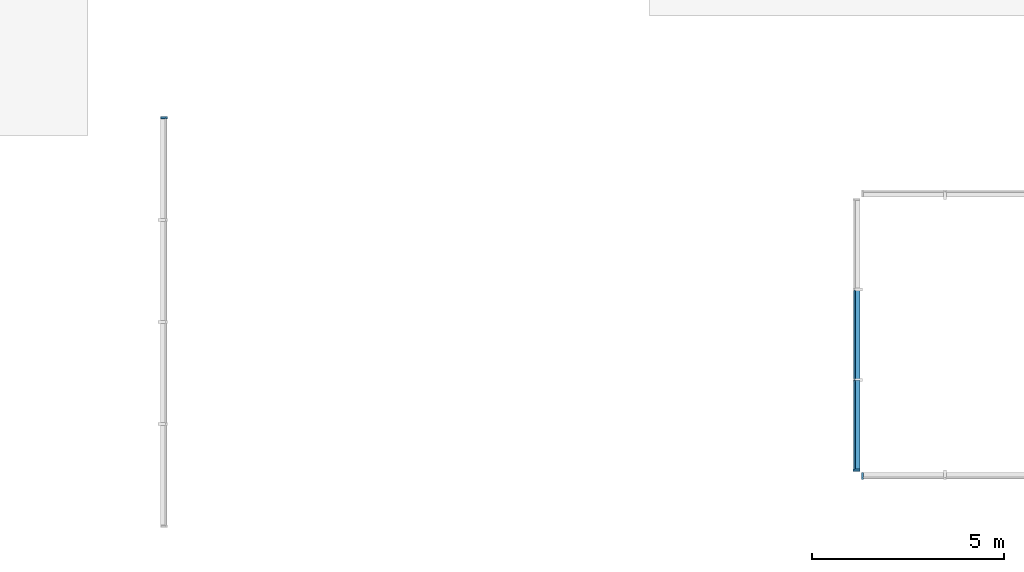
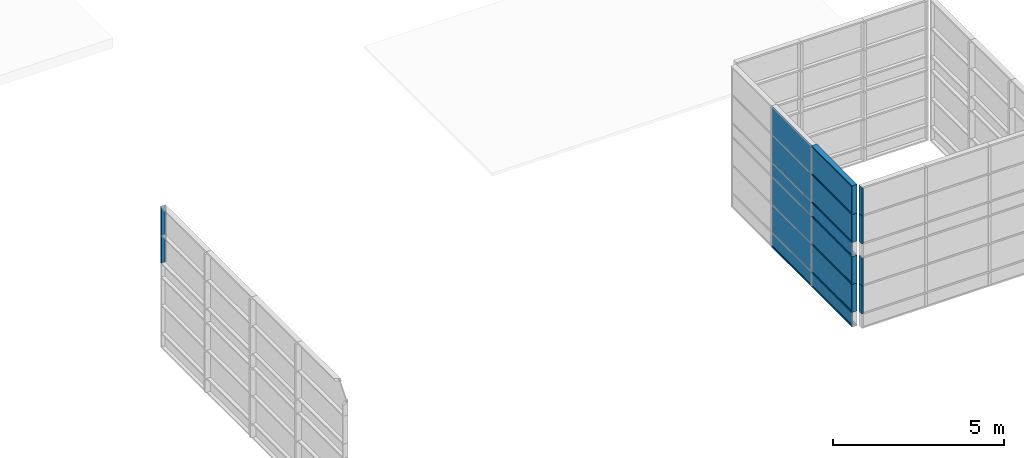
# One storey, part 4 of 19: 30 building element parts, 3 elements without a shape of their own.
"""IFC4 building model written with IfcOpenShell, lengths in millimetres."""

from ifc_helpers import new_model, entity, si_unit, converted_unit, derived_unit, direction, frame, origin_with_axes, place, context, subcontext, project, spatial, triangles, material, element, aggregate, save


model = new_model("IFC4")

# Units and contexts
model_context = context("Model", 3, precision=1e-05, world=origin_with_axes(), true_north=direction((0.0, 1.0)))
body_context = subcontext(model_context, "Body", "Model", "MODEL_VIEW")
ifc_project = project(units=[si_unit("LENGTHUNIT", "METRE", prefix="MILLI"), si_unit("AREAUNIT", "SQUARE_METRE"), si_unit("VOLUMEUNIT", "CUBIC_METRE"), converted_unit("PLANEANGLEUNIT", "DEGREE", entity("IfcLengthMeasure", 0.017453), si_unit("PLANEANGLEUNIT", "RADIAN"), dimensions=[0, 0, 0, 0, 0, 0, 0]), si_unit("SOLIDANGLEUNIT", "STERADIAN"), si_unit("MASSUNIT", "GRAM"), si_unit("TIMEUNIT", "SECOND"), si_unit("THERMODYNAMICTEMPERATUREUNIT", "DEGREE_CELSIUS"), si_unit("LUMINOUSINTENSITYUNIT", "LUMEN"), si_unit("POWERUNIT", "WATT"), derived_unit("THERMALTRANSMITTANCEUNIT", [(si_unit("POWERUNIT", "WATT"), 1), (si_unit("THERMODYNAMICTEMPERATUREUNIT", "KELVIN"), -1), (si_unit("AREAUNIT", "SQUARE_METRE"), -1)])], contexts=[model_context])

# Site, building, storey
site_placement = place(None, origin_with_axes())
site = spatial("IfcSite", under=ifc_project, at=site_placement, Name="Default Site", CompositionType="ELEMENT")
building_placement = place(site_placement, origin_with_axes())
building = spatial("IfcBuilding", under=site, at=building_placement, Name="Default Building", CompositionType="ELEMENT")
storey_placement = place(building_placement, frame((0.0, 0.0, 3000.0), z_axis=(0.0, 0.0, 1.0), x_axis=(1.0, 0.0, 0.0)))
storey = spatial("IfcBuildingStorey", under=building, at=storey_placement, Name="EG - Story", CompositionType="ELEMENT", Elevation=3000.0)

# Curtain wall, building element parts
curtain_wall_1_placement = place(storey_placement, origin_with_axes())
curtain_wall_1 = element("IfcCurtainWall", 1, at=curtain_wall_1_placement, inside=storey, Name="Fassade-013", PredefinedType="NOTDEFINED")
ifc_material_1 = material(Name="Blech")
building_element_part_1_placement = place(curtain_wall_1_placement, frame((51421.391327, -49908.012838, 0.0), z_axis=(0.0, 0.0, 1.0), x_axis=(1.0, 0.0, 0.0)))
building_element_part_1 = element("IfcBuildingElementPart", 2, at=building_element_part_1_placement, material=ifc_material_1, Name="Blech", PredefinedType="NOTDEFINED", context=body_context, shape_type="Tessellation", body=[
    triangles([(15.0, 9293.75, 4000.0), (15.0, 9313.75, 4000.0), (35.0, 9343.75, 4000.0), (-14.999, 9313.75, 4000.0), (-132.999, 9293.75, 4000.0), (-14.999, 9293.75, 4000.0), (-132.999, 9343.75, 4000.0), (35.0, 9293.75, 4000.0), (-14.999, 9313.75, 3000.0), (15.0, 9313.75, 3000.0), (15.0, 9293.75, 3000.0), (35.0, 9293.75, 3000.0), (35.0, 9343.75, 3000.0), (-132.999, 9343.75, 3000.0), (-132.999, 9293.75, 3000.0), (-14.999, 9293.75, 3000.0)], [[1, 2, 3], [3, 2, 4], [3, 4, 5], [5, 4, 6], [3, 5, 7], [1, 3, 8], [2, 4, 9], [2, 9, 10], [11, 1, 2], [11, 2, 10], [1, 11, 12], [1, 12, 8], [13, 3, 8], [13, 8, 12], [14, 7, 3], [14, 3, 13], [15, 5, 7], [15, 7, 14], [16, 6, 5], [16, 5, 15], [4, 6, 16], [4, 16, 9], [13, 12, 11], [13, 11, 10], [13, 10, 9], [13, 9, 15], [13, 15, 14], [16, 15, 9]], closed=False),
])
building_element_part_2_placement = place(curtain_wall_1_placement, frame((51421.391327, -49908.012838, 0.0), z_axis=(0.0, 0.0, 1.0), x_axis=(1.0, 0.0, 0.0)))
building_element_part_2 = element("IfcBuildingElementPart", 3, at=building_element_part_2_placement, material=ifc_material_1, Name="Blech", PredefinedType="NOTDEFINED", context=body_context, shape_type="Tessellation", body=[
    triangles([(15.0, 9313.75, 4995.0), (-14.999, 9313.75, 4995.0), (-132.999, 9343.75, 5025.0), (35.0, 9343.75, 5025.0), (35.0, 9293.75, 4975.0), (15.0, 9293.75, 4975.0), (-14.999, 9293.75, 4975.0), (-132.999, 9293.75, 4975.0), (-14.999, 9313.75, 4000.0), (15.0, 9313.75, 4000.0), (15.0, 9293.75, 4000.0), (35.0, 9293.75, 4000.0), (35.0, 9343.75, 4000.0), (-132.999, 9343.75, 4000.0), (-132.999, 9293.75, 4000.0), (-14.999, 9293.75, 4000.0)], [[1, 2, 3], [1, 3, 4], [1, 4, 5], [1, 5, 6], [7, 8, 3], [7, 3, 2], [1, 2, 9], [1, 9, 10], [11, 6, 1], [11, 1, 10], [6, 11, 12], [6, 12, 5], [13, 4, 5], [13, 5, 12], [14, 3, 4], [14, 4, 13], [15, 8, 3], [15, 3, 14], [16, 7, 8], [16, 8, 15], [2, 7, 16], [2, 16, 9], [13, 12, 11], [13, 11, 10], [13, 10, 9], [13, 9, 15], [13, 15, 14], [16, 15, 9]], closed=False),
])
aggregate(curtain_wall_1, [building_element_part_1, building_element_part_2])

curtain_wall_2_placement = place(storey_placement, origin_with_axes())
curtain_wall_2 = element("IfcCurtainWall", 4, at=curtain_wall_2_placement, inside=storey, Name="Fassade-011", PredefinedType="NOTDEFINED")
ifc_material_2 = material(Name="Normalglas")
building_element_part_3_placement = place(curtain_wall_2_placement, frame((69381.391327, -43896.324358, 0.0), z_axis=(0.0, 0.0, 1.0), x_axis=(1.0, 0.0, 0.0)))
building_element_part_3 = element("IfcBuildingElementPart", 5, at=building_element_part_3_placement, material=ifc_material_2, Name="Normalglas", PredefinedType="NOTDEFINED", context=body_context, shape_type="Tessellation", body=[
    triangles([(15.0, -3515.973, 495.0), (15.0, -1185.324, 495.0), (-14.999, -1185.324, 495.0), (-14.999, -3515.973, 495.0), (15.0, -3515.973, 5.0), (15.0, -1185.324, 5.0), (-14.999, -1185.324, 5.0), (-14.999, -3515.973, 5.0)], [[1, 2, 3], [1, 3, 4], [1, 5, 6], [1, 6, 2], [2, 6, 7], [2, 7, 3], [4, 3, 7], [4, 7, 8], [5, 1, 4], [5, 4, 8], [6, 5, 8], [6, 8, 7]], closed=False),
])
building_element_part_4_placement = place(curtain_wall_2_placement, frame((69381.391327, -43896.324358, 0.0), z_axis=(0.0, 0.0, 1.0), x_axis=(1.0, 0.0, 0.0)))
building_element_part_4 = element("IfcBuildingElementPart", 6, at=building_element_part_4_placement, material=ifc_material_2, Name="Normalglas", PredefinedType="NOTDEFINED", context=body_context, shape_type="Tessellation", body=[
    triangles([(15.0, -5871.623, 495.0), (15.0, -3535.973, 495.0), (-14.999, -3535.973, 495.0), (-14.999, -5871.623, 495.0), (15.0, -5871.623, 5.0), (15.0, -3535.973, 5.0), (-14.999, -3535.973, 5.0), (-14.999, -5871.623, 5.0)], [[1, 2, 3], [1, 3, 4], [1, 5, 6], [1, 6, 2], [2, 6, 7], [2, 7, 3], [4, 3, 7], [4, 7, 8], [5, 1, 4], [5, 4, 8], [6, 5, 8], [6, 8, 7]], closed=False),
])
building_element_part_5_placement = place(curtain_wall_2_placement, frame((69381.391327, -43896.324358, 0.0), z_axis=(0.0, 0.0, 1.0), x_axis=(1.0, 0.0, 0.0)))
building_element_part_5 = element("IfcBuildingElementPart", 7, at=building_element_part_5_placement, material=ifc_material_2, Name="Normalglas", PredefinedType="NOTDEFINED", context=body_context, shape_type="Tessellation", body=[
    triangles([(15.0, -3515.973, 1495.0), (15.0, -1185.324, 1495.0), (-14.999, -1185.324, 1495.0), (-14.999, -3515.973, 1495.0), (15.0, -3515.973, 505.0), (15.0, -1185.324, 505.0), (-14.999, -1185.324, 505.0), (-14.999, -3515.973, 505.0)], [[1, 2, 3], [1, 3, 4], [1, 5, 6], [1, 6, 2], [2, 6, 7], [2, 7, 3], [4, 3, 7], [4, 7, 8], [5, 1, 4], [5, 4, 8], [6, 5, 8], [6, 8, 7]], closed=False),
])
building_element_part_6_placement = place(curtain_wall_2_placement, frame((69381.391327, -43896.324358, 0.0), z_axis=(0.0, 0.0, 1.0), x_axis=(1.0, 0.0, 0.0)))
building_element_part_6 = element("IfcBuildingElementPart", 8, at=building_element_part_6_placement, material=ifc_material_2, Name="Normalglas", PredefinedType="NOTDEFINED", context=body_context, shape_type="Tessellation", body=[
    triangles([(15.0, -5871.623, 1495.0), (15.0, -3535.973, 1495.0), (-14.999, -3535.973, 1495.0), (-14.999, -5871.623, 1495.0), (15.0, -5871.623, 505.0), (15.0, -3535.973, 505.0), (-14.999, -3535.973, 505.0), (-14.999, -5871.623, 505.0)], [[1, 2, 3], [1, 3, 4], [1, 5, 6], [1, 6, 2], [2, 6, 7], [2, 7, 3], [4, 3, 7], [4, 7, 8], [5, 1, 4], [5, 4, 8], [6, 5, 8], [6, 8, 7]], closed=False),
])
building_element_part_7_placement = place(curtain_wall_2_placement, frame((69381.391327, -43896.324358, 0.0), z_axis=(0.0, 0.0, 1.0), x_axis=(1.0, 0.0, 0.0)))
building_element_part_7 = element("IfcBuildingElementPart", 9, at=building_element_part_7_placement, material=ifc_material_2, Name="Normalglas", PredefinedType="NOTDEFINED", context=body_context, shape_type="Tessellation", body=[
    triangles([(15.0, -3515.973, 2495.0), (15.0, -1185.324, 2495.0), (-14.999, -1185.324, 2495.0), (-14.999, -3515.973, 2495.0), (15.0, -3515.973, 1505.0), (15.0, -1185.324, 1505.0), (-14.999, -1185.324, 1505.0), (-14.999, -3515.973, 1505.0)], [[1, 2, 3], [1, 3, 4], [1, 5, 6], [1, 6, 2], [2, 6, 7], [2, 7, 3], [4, 3, 7], [4, 7, 8], [5, 1, 4], [5, 4, 8], [6, 5, 8], [6, 8, 7]], closed=False),
])
building_element_part_8_placement = place(curtain_wall_2_placement, frame((69381.391327, -43896.324358, 0.0), z_axis=(0.0, 0.0, 1.0), x_axis=(1.0, 0.0, 0.0)))
building_element_part_8 = element("IfcBuildingElementPart", 10, at=building_element_part_8_placement, material=ifc_material_2, Name="Normalglas", PredefinedType="NOTDEFINED", context=body_context, shape_type="Tessellation", body=[
    triangles([(15.0, -5871.623, 2495.0), (15.0, -3535.973, 2495.0), (-14.999, -3535.973, 2495.0), (-14.999, -5871.623, 2495.0), (15.0, -5871.623, 1505.0), (15.0, -3535.973, 1505.0), (-14.999, -3535.973, 1505.0), (-14.999, -5871.623, 1505.0)], [[1, 2, 3], [1, 3, 4], [1, 5, 6], [1, 6, 2], [2, 6, 7], [2, 7, 3], [4, 3, 7], [4, 7, 8], [5, 1, 4], [5, 4, 8], [6, 5, 8], [6, 8, 7]], closed=False),
])
building_element_part_9_placement = place(curtain_wall_2_placement, frame((69381.391327, -43896.324358, 0.0), z_axis=(0.0, 0.0, 1.0), x_axis=(1.0, 0.0, 0.0)))
building_element_part_9 = element("IfcBuildingElementPart", 11, at=building_element_part_9_placement, material=ifc_material_2, Name="Normalglas", PredefinedType="NOTDEFINED", context=body_context, shape_type="Tessellation", body=[
    triangles([(15.0, -3515.973, 2995.0), (15.0, -1185.324, 2995.0), (-14.999, -1185.324, 2995.0), (-14.999, -3515.973, 2995.0), (15.0, -3515.973, 2505.0), (15.0, -1185.324, 2505.0), (-14.999, -1185.324, 2505.0), (-14.999, -3515.973, 2505.0)], [[1, 2, 3], [1, 3, 4], [1, 5, 6], [1, 6, 2], [2, 6, 7], [2, 7, 3], [4, 3, 7], [4, 7, 8], [5, 1, 4], [5, 4, 8], [6, 5, 8], [6, 8, 7]], closed=False),
])
building_element_part_10_placement = place(curtain_wall_2_placement, frame((69381.391327, -43896.324358, 0.0), z_axis=(0.0, 0.0, 1.0), x_axis=(1.0, 0.0, 0.0)))
building_element_part_10 = element("IfcBuildingElementPart", 12, at=building_element_part_10_placement, material=ifc_material_2, Name="Normalglas", PredefinedType="NOTDEFINED", context=body_context, shape_type="Tessellation", body=[
    triangles([(15.0, -5871.623, 2995.0), (15.0, -3535.973, 2995.0), (-14.999, -3535.973, 2995.0), (-14.999, -5871.623, 2995.0), (15.0, -5871.623, 2505.0), (15.0, -3535.973, 2505.0), (-14.999, -3535.973, 2505.0), (-14.999, -5871.623, 2505.0)], [[1, 2, 3], [1, 3, 4], [1, 5, 6], [1, 6, 2], [2, 6, 7], [2, 7, 3], [4, 3, 7], [4, 7, 8], [5, 1, 4], [5, 4, 8], [6, 5, 8], [6, 8, 7]], closed=False),
])
building_element_part_11_placement = place(curtain_wall_2_placement, frame((69381.391327, -43896.324358, 0.0), z_axis=(0.0, 0.0, 1.0), x_axis=(1.0, 0.0, 0.0)))
building_element_part_11 = element("IfcBuildingElementPart", 13, at=building_element_part_11_placement, material=ifc_material_2, Name="Normalglas", PredefinedType="NOTDEFINED", context=body_context, shape_type="Tessellation", body=[
    triangles([(15.0, -3515.973, 3995.0), (15.0, -1185.324, 3995.0), (-14.999, -1185.324, 3995.0), (-14.999, -3515.973, 3995.0), (15.0, -3515.973, 3005.0), (15.0, -1185.324, 3005.0), (-14.999, -1185.324, 3005.0), (-14.999, -3515.973, 3005.0)], [[1, 2, 3], [1, 3, 4], [1, 5, 6], [1, 6, 2], [2, 6, 7], [2, 7, 3], [4, 3, 7], [4, 7, 8], [5, 1, 4], [5, 4, 8], [6, 5, 8], [6, 8, 7]], closed=False),
])
building_element_part_12_placement = place(curtain_wall_2_placement, frame((69381.391327, -43896.324358, 0.0), z_axis=(0.0, 0.0, 1.0), x_axis=(1.0, 0.0, 0.0)))
building_element_part_12 = element("IfcBuildingElementPart", 14, at=building_element_part_12_placement, material=ifc_material_2, Name="Normalglas", PredefinedType="NOTDEFINED", context=body_context, shape_type="Tessellation", body=[
    triangles([(15.0, -5871.623, 3995.0), (15.0, -3535.973, 3995.0), (-14.999, -3535.973, 3995.0), (-14.999, -5871.623, 3995.0), (15.0, -5871.623, 3005.0), (15.0, -3535.973, 3005.0), (-14.999, -3535.973, 3005.0), (-14.999, -5871.623, 3005.0)], [[1, 2, 3], [1, 3, 4], [1, 5, 6], [1, 6, 2], [2, 6, 7], [2, 7, 3], [4, 3, 7], [4, 7, 8], [5, 1, 4], [5, 4, 8], [6, 5, 8], [6, 8, 7]], closed=False),
])
building_element_part_13_placement = place(curtain_wall_2_placement, frame((69381.391327, -43896.324358, 0.0), z_axis=(0.0, 0.0, 1.0), x_axis=(1.0, 0.0, 0.0)))
building_element_part_13 = element("IfcBuildingElementPart", 15, at=building_element_part_13_placement, material=ifc_material_2, Name="Normalglas", PredefinedType="NOTDEFINED", context=body_context, shape_type="Tessellation", body=[
    triangles([(15.0, -3515.973, 4995.0), (15.0, -1185.324, 4995.0), (-14.999, -1185.324, 4995.0), (-14.999, -3515.973, 4995.0), (15.0, -3515.973, 4005.0), (15.0, -1185.324, 4005.0), (-14.999, -1185.324, 4005.0), (-14.999, -3515.973, 4005.0)], [[1, 2, 3], [1, 3, 4], [1, 5, 6], [1, 6, 2], [2, 6, 7], [2, 7, 3], [4, 3, 7], [4, 7, 8], [5, 1, 4], [5, 4, 8], [6, 5, 8], [6, 8, 7]], closed=False),
])
building_element_part_14_placement = place(curtain_wall_2_placement, frame((69381.391327, -43896.324358, 0.0), z_axis=(0.0, 0.0, 1.0), x_axis=(1.0, 0.0, 0.0)))
building_element_part_14 = element("IfcBuildingElementPart", 16, at=building_element_part_14_placement, material=ifc_material_2, Name="Normalglas", PredefinedType="NOTDEFINED", context=body_context, shape_type="Tessellation", body=[
    triangles([(15.0, -5871.623, 4995.0), (15.0, -3535.973, 4995.0), (-14.999, -3535.973, 4995.0), (-14.999, -5871.623, 4995.0), (15.0, -5871.623, 4005.0), (15.0, -3535.973, 4005.0), (-14.999, -3535.973, 4005.0), (-14.999, -5871.623, 4005.0)], [[1, 2, 3], [1, 3, 4], [1, 5, 6], [1, 6, 2], [2, 6, 7], [2, 7, 3], [4, 3, 7], [4, 7, 8], [5, 1, 4], [5, 4, 8], [6, 5, 8], [6, 8, 7]], closed=False),
])
building_element_part_15_placement = place(curtain_wall_2_placement, frame((69381.391327, -43896.324358, 0.0), z_axis=(0.0, 0.0, 1.0), x_axis=(1.0, 0.0, 0.0)))
building_element_part_15 = element("IfcBuildingElementPart", 17, at=building_element_part_15_placement, material=ifc_material_1, Name="Blech", PredefinedType="NOTDEFINED", context=body_context, shape_type="Tessellation", body=[
    triangles([(-14.999, -3525.973, 5.0), (15.0, -3525.973, 5.0), (133.0, -3525.973, -24.999), (-34.999, -3525.973, -24.999), (-34.999, -3525.973, 25.0), (-14.999, -3525.973, 25.0), (133.0, -3525.973, 25.0), (15.0, -3525.973, 25.0), (15.0, -1175.324, 5.0), (-14.999, -1175.324, 5.0), (-14.999, -1175.324, 25.0), (-34.999, -1175.324, 25.0), (-34.999, -1175.324, -24.999), (133.0, -1175.324, -24.999), (133.0, -1175.324, 25.0), (15.0, -1175.324, 25.0)], [[1, 2, 3], [1, 3, 4], [1, 4, 5], [1, 5, 6], [7, 3, 2], [7, 2, 8], [1, 2, 9], [1, 9, 10], [11, 6, 1], [11, 1, 10], [6, 11, 12], [6, 12, 5], [13, 4, 5], [13, 5, 12], [14, 3, 4], [14, 4, 13], [15, 7, 3], [15, 3, 14], [16, 8, 7], [16, 7, 15], [2, 8, 16], [2, 16, 9], [16, 15, 9], [9, 15, 14], [9, 14, 10], [10, 14, 13], [10, 13, 12], [10, 12, 11]], closed=False),
])
building_element_part_16_placement = place(curtain_wall_2_placement, frame((69381.391327, -43896.324358, 0.0), z_axis=(0.0, 0.0, 1.0), x_axis=(1.0, 0.0, 0.0)))
building_element_part_16 = element("IfcBuildingElementPart", 18, at=building_element_part_16_placement, material=ifc_material_1, Name="Blech", PredefinedType="NOTDEFINED", context=body_context, shape_type="Tessellation", body=[
    triangles([(-14.999, -5871.623, 5.0), (15.0, -5871.623, 5.0), (133.0, -5901.623, -24.999), (-34.999, -5901.623, -24.999), (-34.999, -5851.623, 25.0), (-14.999, -5851.623, 25.0), (133.0, -5851.623, 25.0), (15.0, -5851.623, 25.0), (15.0, -3525.973, 5.0), (-14.999, -3525.973, 5.0), (-14.999, -3525.973, 25.0), (-34.999, -3525.973, 25.0), (-34.999, -3525.973, -24.999), (133.0, -3525.973, -24.999), (133.0, -3525.973, 25.0), (15.0, -3525.973, 25.0)], [[1, 2, 3], [1, 3, 4], [1, 4, 5], [1, 5, 6], [7, 3, 2], [7, 2, 8], [1, 2, 9], [1, 9, 10], [11, 6, 1], [11, 1, 10], [6, 11, 12], [6, 12, 5], [13, 4, 5], [13, 5, 12], [14, 3, 4], [14, 4, 13], [15, 7, 3], [15, 3, 14], [16, 8, 7], [16, 7, 15], [2, 8, 16], [2, 16, 9], [16, 15, 9], [9, 15, 14], [9, 14, 10], [10, 14, 13], [10, 13, 12], [10, 12, 11]], closed=False),
])
building_element_part_17_placement = place(curtain_wall_2_placement, frame((69381.391327, -43896.324358, 0.0), z_axis=(0.0, 0.0, 1.0), x_axis=(1.0, 0.0, 0.0)))
building_element_part_17 = element("IfcBuildingElementPart", 19, at=building_element_part_17_placement, material=ifc_material_1, Name="Blech", PredefinedType="NOTDEFINED", context=body_context, shape_type="Tessellation", body=[
    triangles([(-14.999, -5851.623, 525.0), (-34.999, -5851.623, 525.0), (-14.999, -5851.623, 505.0), (-14.999, -5851.623, 495.0), (15.0, -5851.623, 505.0), (133.0, -5851.623, 525.0), (15.0, -5851.623, 525.0), (-34.999, -5851.623, 475.0), (-14.999, -5851.623, 475.0), (15.0, -5851.623, 495.0), (15.0, -5851.623, 475.0), (133.0, -5851.623, 475.0), (15.0, -3525.973, 495.0), (15.0, -3525.973, 475.0), (133.0, -3525.973, 475.0), (133.0, -3525.973, 525.0), (15.0, -3525.973, 525.0), (15.0, -3525.973, 505.0), (-14.999, -3525.973, 505.0), (-14.999, -3525.973, 525.0), (-34.999, -3525.973, 525.0), (-34.999, -3525.973, 475.0), (-14.999, -3525.973, 475.0), (-14.999, -3525.973, 495.0)], [[1, 2, 3], [3, 2, 4], [3, 4, 5], [5, 4, 6], [5, 6, 7], [8, 9, 4], [8, 4, 2], [6, 4, 10], [6, 10, 11], [6, 11, 12], [11, 10, 13], [11, 13, 14], [11, 14, 15], [11, 15, 12], [6, 12, 15], [6, 15, 16], [7, 6, 16], [7, 16, 17], [7, 17, 18], [7, 18, 5], [5, 18, 19], [5, 19, 3], [1, 3, 19], [1, 19, 20], [20, 21, 2], [20, 2, 1], [8, 2, 21], [8, 21, 22], [23, 9, 8], [23, 8, 22], [4, 9, 23], [4, 23, 24], [10, 4, 24], [10, 24, 13], [17, 16, 18], [18, 16, 13], [18, 13, 19], [19, 13, 24], [19, 24, 21], [21, 24, 23], [21, 23, 22], [15, 14, 13], [15, 13, 16], [19, 21, 20]], closed=False),
])
building_element_part_18_placement = place(curtain_wall_2_placement, frame((69381.391327, -43896.324358, 0.0), z_axis=(0.0, 0.0, 1.0), x_axis=(1.0, 0.0, 0.0)))
building_element_part_18 = element("IfcBuildingElementPart", 20, at=building_element_part_18_placement, material=ifc_material_1, Name="Blech", PredefinedType="NOTDEFINED", context=body_context, shape_type="Tessellation", body=[
    triangles([(15.0, -5851.623, 1500.0), (133.0, -5851.623, 1500.0), (15.0, -5871.623, 1500.0), (133.0, -5901.623, 1500.0), (-14.999, -5871.623, 1500.0), (-34.999, -5901.623, 1500.0), (-14.999, -5851.623, 1500.0), (-34.999, -5851.623, 1500.0), (15.0, -5871.623, 500.0), (-14.999, -5871.623, 500.0), (-14.999, -5851.623, 500.0), (-34.999, -5851.623, 500.0), (-34.999, -5901.623, 500.0), (133.0, -5901.623, 500.0), (133.0, -5851.623, 500.0), (15.0, -5851.623, 500.0)], [[1, 2, 3], [3, 2, 4], [3, 4, 5], [5, 4, 6], [5, 6, 7], [7, 6, 8], [5, 3, 9], [5, 9, 10], [11, 7, 5], [11, 5, 10], [7, 11, 12], [7, 12, 8], [13, 6, 8], [13, 8, 12], [14, 4, 6], [14, 6, 13], [15, 2, 4], [15, 4, 14], [16, 1, 2], [16, 2, 15], [3, 1, 16], [3, 16, 9], [16, 15, 9], [9, 15, 14], [9, 14, 10], [10, 14, 13], [10, 13, 11], [11, 13, 12]], closed=False),
])
building_element_part_19_placement = place(curtain_wall_2_placement, frame((69381.391327, -43896.324358, 0.0), z_axis=(0.0, 0.0, 1.0), x_axis=(1.0, 0.0, 0.0)))
building_element_part_19 = element("IfcBuildingElementPart", 21, at=building_element_part_19_placement, material=ifc_material_1, Name="Blech", PredefinedType="NOTDEFINED", context=body_context, shape_type="Tessellation", body=[
    triangles([(-14.999, -5851.623, 1525.0), (-34.999, -5851.623, 1525.0), (-14.999, -5851.623, 1505.0), (-14.999, -5851.623, 1495.0), (15.0, -5851.623, 1505.0), (133.0, -5851.623, 1525.0), (15.0, -5851.623, 1525.0), (-34.999, -5851.623, 1475.0), (-14.999, -5851.623, 1475.0), (15.0, -5851.623, 1495.0), (15.0, -5851.623, 1475.0), (133.0, -5851.623, 1475.0), (15.0, -3525.973, 1495.0), (15.0, -3525.973, 1475.0), (133.0, -3525.973, 1475.0), (133.0, -3525.973, 1525.0), (15.0, -3525.973, 1525.0), (15.0, -3525.973, 1505.0), (-14.999, -3525.973, 1505.0), (-14.999, -3525.973, 1525.0), (-34.999, -3525.973, 1525.0), (-34.999, -3525.973, 1475.0), (-14.999, -3525.973, 1475.0), (-14.999, -3525.973, 1495.0)], [[1, 2, 3], [3, 2, 4], [3, 4, 5], [5, 4, 6], [5, 6, 7], [8, 9, 4], [8, 4, 2], [6, 4, 10], [6, 10, 11], [6, 11, 12], [11, 10, 13], [11, 13, 14], [11, 14, 15], [11, 15, 12], [6, 12, 15], [6, 15, 16], [7, 6, 16], [7, 16, 17], [7, 17, 18], [7, 18, 5], [5, 18, 19], [5, 19, 3], [1, 3, 19], [1, 19, 20], [20, 21, 2], [20, 2, 1], [8, 2, 21], [8, 21, 22], [23, 9, 8], [23, 8, 22], [4, 9, 23], [4, 23, 24], [10, 4, 24], [10, 24, 13], [17, 16, 18], [18, 16, 13], [18, 13, 19], [19, 13, 24], [19, 24, 21], [21, 24, 23], [21, 23, 22], [15, 14, 13], [15, 13, 16], [19, 21, 20]], closed=False),
])
building_element_part_20_placement = place(curtain_wall_2_placement, frame((69381.391327, -43896.324358, 0.0), z_axis=(0.0, 0.0, 1.0), x_axis=(1.0, 0.0, 0.0)))
building_element_part_20 = element("IfcBuildingElementPart", 22, at=building_element_part_20_placement, material=ifc_material_1, Name="Blech", PredefinedType="NOTDEFINED", context=body_context, shape_type="Tessellation", body=[
    triangles([(15.0, -5851.623, 2500.0), (133.0, -5851.623, 2500.0), (15.0, -5871.623, 2500.0), (133.0, -5901.623, 2500.0), (-14.999, -5871.623, 2500.0), (-34.999, -5901.623, 2500.0), (-14.999, -5851.623, 2500.0), (-34.999, -5851.623, 2500.0), (15.0, -5871.623, 1500.0), (-14.999, -5871.623, 1500.0), (-14.999, -5851.623, 1500.0), (-34.999, -5851.623, 1500.0), (-34.999, -5901.623, 1500.0), (133.0, -5901.623, 1500.0), (133.0, -5851.623, 1500.0), (15.0, -5851.623, 1500.0)], [[1, 2, 3], [3, 2, 4], [3, 4, 5], [5, 4, 6], [5, 6, 7], [7, 6, 8], [5, 3, 9], [5, 9, 10], [11, 7, 5], [11, 5, 10], [7, 11, 12], [7, 12, 8], [13, 6, 8], [13, 8, 12], [14, 4, 6], [14, 6, 13], [15, 2, 4], [15, 4, 14], [16, 1, 2], [16, 2, 15], [3, 1, 16], [3, 16, 9], [16, 15, 9], [9, 15, 14], [9, 14, 10], [10, 14, 13], [10, 13, 11], [11, 13, 12]], closed=False),
])
building_element_part_21_placement = place(curtain_wall_2_placement, frame((69381.391327, -43896.324358, 0.0), z_axis=(0.0, 0.0, 1.0), x_axis=(1.0, 0.0, 0.0)))
building_element_part_21 = element("IfcBuildingElementPart", 23, at=building_element_part_21_placement, material=ifc_material_1, Name="Blech", PredefinedType="NOTDEFINED", context=body_context, shape_type="Tessellation", body=[
    triangles([(-14.999, -5851.623, 2525.0), (-34.999, -5851.623, 2525.0), (-14.999, -5851.623, 2505.0), (-14.999, -5851.623, 2495.0), (15.0, -5851.623, 2505.0), (133.0, -5851.623, 2525.0), (15.0, -5851.623, 2525.0), (-34.999, -5851.623, 2475.0), (-14.999, -5851.623, 2475.0), (15.0, -5851.623, 2495.0), (15.0, -5851.623, 2475.0), (133.0, -5851.623, 2475.0), (15.0, -3525.973, 2495.0), (15.0, -3525.973, 2475.0), (133.0, -3525.973, 2475.0), (133.0, -3525.973, 2525.0), (15.0, -3525.973, 2525.0), (15.0, -3525.973, 2505.0), (-14.999, -3525.973, 2505.0), (-14.999, -3525.973, 2525.0), (-34.999, -3525.973, 2525.0), (-34.999, -3525.973, 2475.0), (-14.999, -3525.973, 2475.0), (-14.999, -3525.973, 2495.0)], [[1, 2, 3], [3, 2, 4], [3, 4, 5], [5, 4, 6], [5, 6, 7], [8, 9, 4], [8, 4, 2], [6, 4, 10], [6, 10, 11], [6, 11, 12], [11, 10, 13], [11, 13, 14], [11, 14, 15], [11, 15, 12], [6, 12, 15], [6, 15, 16], [7, 6, 16], [7, 16, 17], [7, 17, 18], [7, 18, 5], [5, 18, 19], [5, 19, 3], [1, 3, 19], [1, 19, 20], [20, 21, 2], [20, 2, 1], [8, 2, 21], [8, 21, 22], [23, 9, 8], [23, 8, 22], [4, 9, 23], [4, 23, 24], [10, 4, 24], [10, 24, 13], [17, 16, 18], [18, 16, 13], [18, 13, 19], [19, 13, 24], [19, 24, 21], [21, 24, 23], [21, 23, 22], [15, 14, 13], [15, 13, 16], [19, 21, 20]], closed=False),
])
building_element_part_22_placement = place(curtain_wall_2_placement, frame((69381.391327, -43896.324358, 0.0), z_axis=(0.0, 0.0, 1.0), x_axis=(1.0, 0.0, 0.0)))
building_element_part_22 = element("IfcBuildingElementPart", 24, at=building_element_part_22_placement, material=ifc_material_1, Name="Blech", PredefinedType="NOTDEFINED", context=body_context, shape_type="Tessellation", body=[
    triangles([(-14.999, -5851.623, 3025.0), (-34.999, -5851.623, 3025.0), (-14.999, -5851.623, 3005.0), (-14.999, -5851.623, 2995.0), (15.0, -5851.623, 3005.0), (133.0, -5851.623, 3025.0), (15.0, -5851.623, 3025.0), (-34.999, -5851.623, 2975.0), (-14.999, -5851.623, 2975.0), (15.0, -5851.623, 2995.0), (15.0, -5851.623, 2975.0), (133.0, -5851.623, 2975.0), (15.0, -3525.973, 2995.0), (15.0, -3525.973, 2975.0), (133.0, -3525.973, 2975.0), (133.0, -3525.973, 3025.0), (15.0, -3525.973, 3025.0), (15.0, -3525.973, 3005.0), (-14.999, -3525.973, 3005.0), (-14.999, -3525.973, 3025.0), (-34.999, -3525.973, 3025.0), (-34.999, -3525.973, 2975.0), (-14.999, -3525.973, 2975.0), (-14.999, -3525.973, 2995.0)], [[1, 2, 3], [3, 2, 4], [3, 4, 5], [5, 4, 6], [5, 6, 7], [8, 9, 4], [8, 4, 2], [6, 4, 10], [6, 10, 11], [6, 11, 12], [11, 10, 13], [11, 13, 14], [11, 14, 15], [11, 15, 12], [6, 12, 15], [6, 15, 16], [7, 6, 16], [7, 16, 17], [7, 17, 18], [7, 18, 5], [5, 18, 19], [5, 19, 3], [1, 3, 19], [1, 19, 20], [20, 21, 2], [20, 2, 1], [8, 2, 21], [8, 21, 22], [23, 9, 8], [23, 8, 22], [4, 9, 23], [4, 23, 24], [10, 4, 24], [10, 24, 13], [17, 16, 18], [18, 16, 13], [18, 13, 19], [19, 13, 24], [19, 24, 21], [21, 24, 23], [21, 23, 22], [15, 14, 13], [15, 13, 16], [19, 21, 20]], closed=False),
])
building_element_part_23_placement = place(curtain_wall_2_placement, frame((69381.391327, -43896.324358, 0.0), z_axis=(0.0, 0.0, 1.0), x_axis=(1.0, 0.0, 0.0)))
building_element_part_23 = element("IfcBuildingElementPart", 25, at=building_element_part_23_placement, material=ifc_material_1, Name="Blech", PredefinedType="NOTDEFINED", context=body_context, shape_type="Tessellation", body=[
    triangles([(15.0, -5851.623, 4000.0), (133.0, -5851.623, 4000.0), (15.0, -5871.623, 4000.0), (133.0, -5901.623, 4000.0), (-14.999, -5871.623, 4000.0), (-34.999, -5901.623, 4000.0), (-14.999, -5851.623, 4000.0), (-34.999, -5851.623, 4000.0), (15.0, -5871.623, 3000.0), (-14.999, -5871.623, 3000.0), (-14.999, -5851.623, 3000.0), (-34.999, -5851.623, 3000.0), (-34.999, -5901.623, 3000.0), (133.0, -5901.623, 3000.0), (133.0, -5851.623, 3000.0), (15.0, -5851.623, 3000.0)], [[1, 2, 3], [3, 2, 4], [3, 4, 5], [5, 4, 6], [5, 6, 7], [7, 6, 8], [5, 3, 9], [5, 9, 10], [11, 7, 5], [11, 5, 10], [7, 11, 12], [7, 12, 8], [13, 6, 8], [13, 8, 12], [14, 4, 6], [14, 6, 13], [15, 2, 4], [15, 4, 14], [16, 1, 2], [16, 2, 15], [3, 1, 16], [3, 16, 9], [16, 15, 9], [9, 15, 14], [9, 14, 10], [10, 14, 13], [10, 13, 11], [11, 13, 12]], closed=False),
])
building_element_part_24_placement = place(curtain_wall_2_placement, frame((69381.391327, -43896.324358, 0.0), z_axis=(0.0, 0.0, 1.0), x_axis=(1.0, 0.0, 0.0)))
building_element_part_24 = element("IfcBuildingElementPart", 26, at=building_element_part_24_placement, material=ifc_material_1, Name="Blech", PredefinedType="NOTDEFINED", context=body_context, shape_type="Tessellation", body=[
    triangles([(-14.999, -5851.623, 4025.0), (-34.999, -5851.623, 4025.0), (-14.999, -5851.623, 4005.0), (-14.999, -5851.623, 3995.0), (15.0, -5851.623, 4005.0), (133.0, -5851.623, 4025.0), (15.0, -5851.623, 4025.0), (-34.999, -5851.623, 3975.0), (-14.999, -5851.623, 3975.0), (15.0, -5851.623, 3995.0), (15.0, -5851.623, 3975.0), (133.0, -5851.623, 3975.0), (15.0, -3525.973, 3995.0), (15.0, -3525.973, 3975.0), (133.0, -3525.973, 3975.0), (133.0, -3525.973, 4025.0), (15.0, -3525.973, 4025.0), (15.0, -3525.973, 4005.0), (-14.999, -3525.973, 4005.0), (-14.999, -3525.973, 4025.0), (-34.999, -3525.973, 4025.0), (-34.999, -3525.973, 3975.0), (-14.999, -3525.973, 3975.0), (-14.999, -3525.973, 3995.0)], [[1, 2, 3], [3, 2, 4], [3, 4, 5], [5, 4, 6], [5, 6, 7], [8, 9, 4], [8, 4, 2], [6, 4, 10], [6, 10, 11], [6, 11, 12], [11, 10, 13], [11, 13, 14], [11, 14, 15], [11, 15, 12], [6, 12, 15], [6, 15, 16], [7, 6, 16], [7, 16, 17], [7, 17, 18], [7, 18, 5], [5, 18, 19], [5, 19, 3], [1, 3, 19], [1, 19, 20], [20, 21, 2], [20, 2, 1], [8, 2, 21], [8, 21, 22], [23, 9, 8], [23, 8, 22], [4, 9, 23], [4, 23, 24], [10, 4, 24], [10, 24, 13], [17, 16, 18], [18, 16, 13], [18, 13, 19], [19, 13, 24], [19, 24, 21], [21, 24, 23], [21, 23, 22], [15, 14, 13], [15, 13, 16], [19, 21, 20]], closed=False),
])
building_element_part_25_placement = place(curtain_wall_2_placement, frame((69381.391327, -43896.324358, 0.0), z_axis=(0.0, 0.0, 1.0), x_axis=(1.0, 0.0, 0.0)))
building_element_part_25 = element("IfcBuildingElementPart", 27, at=building_element_part_25_placement, material=ifc_material_1, Name="Blech", PredefinedType="NOTDEFINED", context=body_context, shape_type="Tessellation", body=[
    triangles([(-14.999, -5871.623, 4995.0), (15.0, -5871.623, 4995.0), (133.0, -5901.623, 5025.0), (-34.999, -5901.623, 5025.0), (-34.999, -5851.623, 4975.0), (-14.999, -5851.623, 4975.0), (15.0, -5851.623, 4975.0), (133.0, -5851.623, 4975.0), (15.0, -5871.623, 4000.0), (-14.999, -5871.623, 4000.0), (-14.999, -5851.623, 4000.0), (-34.999, -5851.623, 4000.0), (-34.999, -5901.623, 4000.0), (133.0, -5901.623, 4000.0), (133.0, -5851.623, 4000.0), (15.0, -5851.623, 4000.0)], [[1, 2, 3], [1, 3, 4], [1, 4, 5], [1, 5, 6], [7, 8, 3], [7, 3, 2], [1, 2, 9], [1, 9, 10], [11, 6, 1], [11, 1, 10], [6, 11, 12], [6, 12, 5], [13, 4, 5], [13, 5, 12], [14, 3, 4], [14, 4, 13], [15, 8, 3], [15, 3, 14], [16, 7, 8], [16, 8, 15], [2, 7, 16], [2, 16, 9], [16, 15, 9], [9, 15, 14], [9, 14, 10], [10, 14, 13], [10, 13, 11], [11, 13, 12]], closed=False),
])
building_element_part_26_placement = place(curtain_wall_2_placement, frame((69381.391327, -43896.324358, 0.0), z_axis=(0.0, 0.0, 1.0), x_axis=(1.0, 0.0, 0.0)))
building_element_part_26 = element("IfcBuildingElementPart", 28, at=building_element_part_26_placement, material=ifc_material_1, Name="Blech", PredefinedType="NOTDEFINED", context=body_context, shape_type="Tessellation", body=[
    triangles([(-14.999, -5871.623, 4995.0), (15.0, -5871.623, 4995.0), (133.0, -5901.623, 5025.0), (-34.999, -5901.623, 5025.0), (-34.999, -5851.623, 4975.0), (-14.999, -5851.623, 4975.0), (15.0, -5851.623, 4975.0), (133.0, -5851.623, 4975.0), (15.0, -3525.973, 4995.0), (15.0, -3525.973, 4975.0), (133.0, -3525.973, 4975.0), (133.0, -3525.973, 5025.0), (-34.999, -3525.973, 5025.0), (-34.999, -3525.973, 4975.0), (-14.999, -3525.973, 4975.0), (-14.999, -3525.973, 4995.0)], [[1, 2, 3], [1, 3, 4], [1, 4, 5], [1, 5, 6], [7, 8, 3], [7, 3, 2], [2, 9, 10], [2, 10, 7], [10, 11, 8], [10, 8, 7], [11, 12, 3], [11, 3, 8], [12, 13, 4], [12, 4, 3], [13, 14, 5], [13, 5, 4], [6, 5, 14], [6, 14, 15], [15, 16, 1], [15, 1, 6], [1, 16, 9], [1, 9, 2], [16, 9, 12], [16, 12, 13], [16, 13, 14], [16, 14, 15], [10, 11, 12], [10, 12, 9]], closed=False),
])
aggregate(curtain_wall_2, [building_element_part_3, building_element_part_4, building_element_part_5, building_element_part_6, building_element_part_7, building_element_part_8, building_element_part_9, building_element_part_10, building_element_part_11, building_element_part_12, building_element_part_13, building_element_part_14, building_element_part_15, building_element_part_16, building_element_part_17, building_element_part_18, building_element_part_19, building_element_part_20, building_element_part_21, building_element_part_22, building_element_part_23, building_element_part_24, building_element_part_25, building_element_part_26])

curtain_wall_3_placement = place(storey_placement, origin_with_axes())
curtain_wall_3 = element("IfcCurtainWall", 29, at=curtain_wall_3_placement, inside=storey, Name="Fassade-010", PredefinedType="NOTDEFINED")
building_element_part_27_placement = place(curtain_wall_3_placement, frame((70654.39916, -49972.947966, -4.5e-05), z_axis=(0.0, 0.0, 1.0), x_axis=(1.0, 0.0, 0.0)))
building_element_part_27 = element("IfcBuildingElementPart", 30, at=building_element_part_27_placement, material=ifc_material_1, Name="Blech", PredefinedType="NOTDEFINED", context=body_context, shape_type="Tessellation", body=[
    triangles([(-1048.007, 15.0, 1500.0), (-1048.007, 133.0, 1500.0), (-1068.007, 15.0, 1500.0), (-1098.007, 133.0, 1500.0), (-1068.007, -14.999, 1500.0), (-1098.007, -34.999, 1500.0), (-1048.007, -34.999, 1500.0), (-1048.007, -14.999, 1500.0), (-1068.007, 15.0, 500.0), (-1048.007, 15.0, 500.0), (-1048.007, 133.0, 500.0), (-1098.007, 133.0, 500.0), (-1098.007, -34.999, 500.0), (-1048.007, -34.999, 500.0), (-1048.007, -14.999, 500.0), (-1068.007, -14.999, 500.0)], [[1, 2, 3], [3, 2, 4], [3, 4, 5], [5, 4, 6], [5, 6, 7], [5, 7, 8], [3, 9, 10], [3, 10, 1], [10, 11, 2], [10, 2, 1], [11, 12, 4], [11, 4, 2], [12, 13, 6], [12, 6, 4], [13, 14, 7], [13, 7, 6], [8, 7, 14], [8, 14, 15], [15, 16, 5], [15, 5, 8], [5, 16, 9], [5, 9, 3], [16, 9, 12], [16, 12, 13], [16, 13, 14], [16, 14, 15], [11, 12, 9], [11, 9, 10]], closed=False),
])
building_element_part_28_placement = place(curtain_wall_3_placement, frame((70654.39916, -49972.947966, -4.5e-05), z_axis=(0.0, 0.0, 1.0), x_axis=(1.0, 0.0, 0.0)))
building_element_part_28 = element("IfcBuildingElementPart", 31, at=building_element_part_28_placement, material=ifc_material_1, Name="Blech", PredefinedType="NOTDEFINED", context=body_context, shape_type="Tessellation", body=[
    triangles([(-1048.007, 15.0, 2500.0), (-1048.007, 133.0, 2500.0), (-1068.007, 15.0, 2500.0), (-1098.007, 133.0, 2500.0), (-1068.007, -14.999, 2500.0), (-1098.007, -34.999, 2500.0), (-1048.007, -34.999, 2500.0), (-1048.007, -14.999, 2500.0), (-1068.007, 15.0, 1500.0), (-1048.007, 15.0, 1500.0), (-1048.007, 133.0, 1500.0), (-1098.007, 133.0, 1500.0), (-1098.007, -34.999, 1500.0), (-1048.007, -34.999, 1500.0), (-1048.007, -14.999, 1500.0), (-1068.007, -14.999, 1500.0)], [[1, 2, 3], [3, 2, 4], [3, 4, 5], [5, 4, 6], [5, 6, 7], [5, 7, 8], [3, 9, 10], [3, 10, 1], [10, 11, 2], [10, 2, 1], [11, 12, 4], [11, 4, 2], [12, 13, 6], [12, 6, 4], [13, 14, 7], [13, 7, 6], [8, 7, 14], [8, 14, 15], [15, 16, 5], [15, 5, 8], [5, 16, 9], [5, 9, 3], [16, 9, 12], [16, 12, 13], [16, 13, 14], [16, 14, 15], [11, 12, 9], [11, 9, 10]], closed=False),
])
building_element_part_29_placement = place(curtain_wall_3_placement, frame((70654.39916, -49972.947966, -4.5e-05), z_axis=(0.0, 0.0, 1.0), x_axis=(1.0, 0.0, 0.0)))
building_element_part_29 = element("IfcBuildingElementPart", 32, at=building_element_part_29_placement, material=ifc_material_1, Name="Blech", PredefinedType="NOTDEFINED", context=body_context, shape_type="Tessellation", body=[
    triangles([(-1048.007, 15.0, 4000.0), (-1048.007, 133.0, 4000.0), (-1068.007, 15.0, 4000.0), (-1098.007, 133.0, 4000.0), (-1068.007, -14.999, 4000.0), (-1098.007, -34.999, 4000.0), (-1048.007, -34.999, 4000.0), (-1048.007, -14.999, 4000.0), (-1068.007, 15.0, 3000.0), (-1048.007, 15.0, 3000.0), (-1048.007, 133.0, 3000.0), (-1098.007, 133.0, 3000.0), (-1098.007, -34.999, 3000.0), (-1048.007, -34.999, 3000.0), (-1048.007, -14.999, 3000.0), (-1068.007, -14.999, 3000.0)], [[1, 2, 3], [3, 2, 4], [3, 4, 5], [5, 4, 6], [5, 6, 7], [5, 7, 8], [3, 9, 10], [3, 10, 1], [10, 11, 2], [10, 2, 1], [11, 12, 4], [11, 4, 2], [12, 13, 6], [12, 6, 4], [13, 14, 7], [13, 7, 6], [8, 7, 14], [8, 14, 15], [15, 16, 5], [15, 5, 8], [5, 16, 9], [5, 9, 3], [16, 9, 12], [16, 12, 13], [16, 13, 14], [16, 14, 15], [11, 12, 9], [11, 9, 10]], closed=False),
])
building_element_part_30_placement = place(curtain_wall_3_placement, frame((70654.39916, -49972.947966, -4.5e-05), z_axis=(0.0, 0.0, 1.0), x_axis=(1.0, 0.0, 0.0)))
building_element_part_30 = element("IfcBuildingElementPart", 33, at=building_element_part_30_placement, material=ifc_material_1, Name="Blech", PredefinedType="NOTDEFINED", context=body_context, shape_type="Tessellation", body=[
    triangles([(-1048.007, 15.0, 4975.0), (-1048.007, 133.0, 4975.0), (-1068.007, 15.0, 4995.0), (-1098.007, 133.0, 5025.0), (-1068.007, -14.999, 4995.0), (-1098.007, -34.999, 5025.0), (-1048.007, -14.999, 4975.0), (-1048.007, -34.999, 4975.0), (-1068.007, 15.0, 4000.0), (-1048.007, 15.0, 4000.0), (-1048.007, 133.0, 4000.0), (-1098.007, 133.0, 4000.0), (-1098.007, -34.999, 4000.0), (-1048.007, -34.999, 4000.0), (-1048.007, -14.999, 4000.0), (-1068.007, -14.999, 4000.0)], [[1, 2, 3], [3, 2, 4], [3, 4, 5], [5, 4, 6], [5, 6, 7], [7, 6, 8], [3, 9, 10], [3, 10, 1], [10, 11, 2], [10, 2, 1], [11, 12, 4], [11, 4, 2], [12, 13, 6], [12, 6, 4], [13, 14, 8], [13, 8, 6], [7, 8, 14], [7, 14, 15], [15, 16, 5], [15, 5, 7], [5, 16, 9], [5, 9, 3], [16, 9, 12], [16, 12, 13], [16, 13, 14], [16, 14, 15], [11, 12, 9], [11, 9, 10]], closed=False),
])
aggregate(curtain_wall_3, [building_element_part_27, building_element_part_28, building_element_part_29, building_element_part_30])

save(model, "model.ifc")
